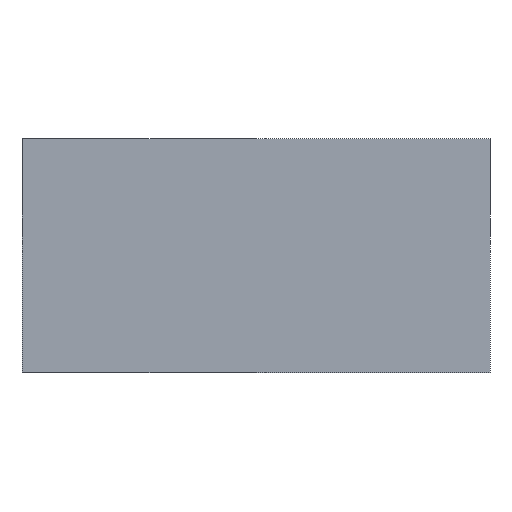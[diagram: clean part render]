
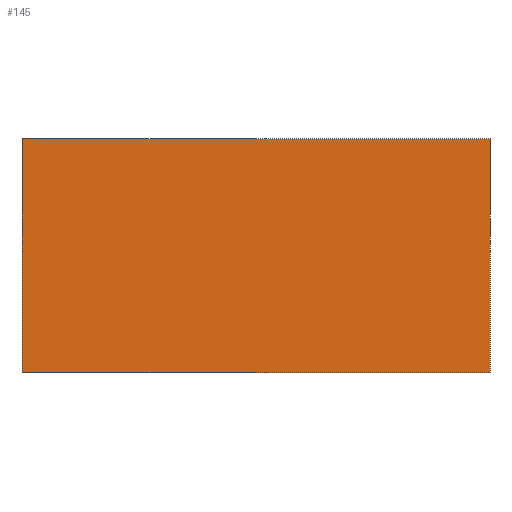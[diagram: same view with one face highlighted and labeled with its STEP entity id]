
A CAD part, front view. The second image highlights one B-rep face of the part: STEP entity #145.
In plain terms, the highlighted planar face has unit normal (0, -1, 0).
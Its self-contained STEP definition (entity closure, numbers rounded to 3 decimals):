
#4 = CARTESIAN_POINT ( 'NONE',  ( -21.983, 0., -7.155 ) ) ;
#13 = ORIENTED_EDGE ( 'NONE', *, *, #126, .F. ) ;
#16 = LINE ( 'NONE', #92, #84 ) ;
#18 = DIRECTION ( 'NONE',  ( 1., 0., 0. ) ) ;
#27 = VECTOR ( 'NONE', #18, 1000. ) ;
#32 = EDGE_LOOP ( 'NONE', ( #127, #13, #110, #215 ) ) ;
#34 = CARTESIAN_POINT ( 'NONE',  ( -41.983, 0., -17.155 ) ) ;
#37 = DIRECTION ( 'NONE',  ( 0., 0., 1. ) ) ;
#38 = EDGE_CURVE ( 'NONE', #159, #199, #16, .T. ) ;
#42 = EDGE_CURVE ( 'NONE', #232, #230, #197, .T. ) ;
#67 = CARTESIAN_POINT ( 'NONE',  ( -41.983, 0., -7.155 ) ) ;
#73 = AXIS2_PLACEMENT_3D ( 'NONE', #76, #218, #37 ) ;
#76 = CARTESIAN_POINT ( 'NONE',  ( 0., 0., 0. ) ) ;
#84 = VECTOR ( 'NONE', #141, 1000. ) ;
#92 = CARTESIAN_POINT ( 'NONE',  ( -21.983, 0., -17.155 ) ) ;
#96 = PLANE ( 'NONE',  #73 ) ;
#103 = DIRECTION ( 'NONE',  ( 0., 0., 1. ) ) ;
#104 = VECTOR ( 'NONE', #103, 1000. ) ;
#110 = ORIENTED_EDGE ( 'NONE', *, *, #38, .F. ) ;
#114 = LINE ( 'NONE', #182, #27 ) ;
#126 = EDGE_CURVE ( 'NONE', #199, #232, #237, .T. ) ;
#127 = ORIENTED_EDGE ( 'NONE', *, *, #42, .F. ) ;
#141 = DIRECTION ( 'NONE',  ( 0., 0., -1. ) ) ;
#144 = DIRECTION ( 'NONE',  ( -1., 0., 0. ) ) ;
#145 = ADVANCED_FACE ( 'NONE', ( #201 ), #96, .F. ) ;
#148 = CARTESIAN_POINT ( 'NONE',  ( -21.983, 0., -17.155 ) ) ;
#155 = EDGE_CURVE ( 'NONE', #230, #159, #114, .T. ) ;
#159 = VERTEX_POINT ( 'NONE', #4 ) ;
#164 = CARTESIAN_POINT ( 'NONE',  ( -41.983, 0., -17.155 ) ) ;
#173 = VECTOR ( 'NONE', #144, 1000. ) ;
#182 = CARTESIAN_POINT ( 'NONE',  ( -41.983, 0., -7.155 ) ) ;
#196 = CARTESIAN_POINT ( 'NONE',  ( -41.983, 0., -17.155 ) ) ;
#197 = LINE ( 'NONE', #34, #104 ) ;
#199 = VERTEX_POINT ( 'NONE', #148 ) ;
#201 = FACE_OUTER_BOUND ( 'NONE', #32, .T. ) ;
#215 = ORIENTED_EDGE ( 'NONE', *, *, #155, .F. ) ;
#218 = DIRECTION ( 'NONE',  ( 0., 1., 0. ) ) ;
#230 = VERTEX_POINT ( 'NONE', #67 ) ;
#232 = VERTEX_POINT ( 'NONE', #196 ) ;
#237 = LINE ( 'NONE', #164, #173 ) ;
